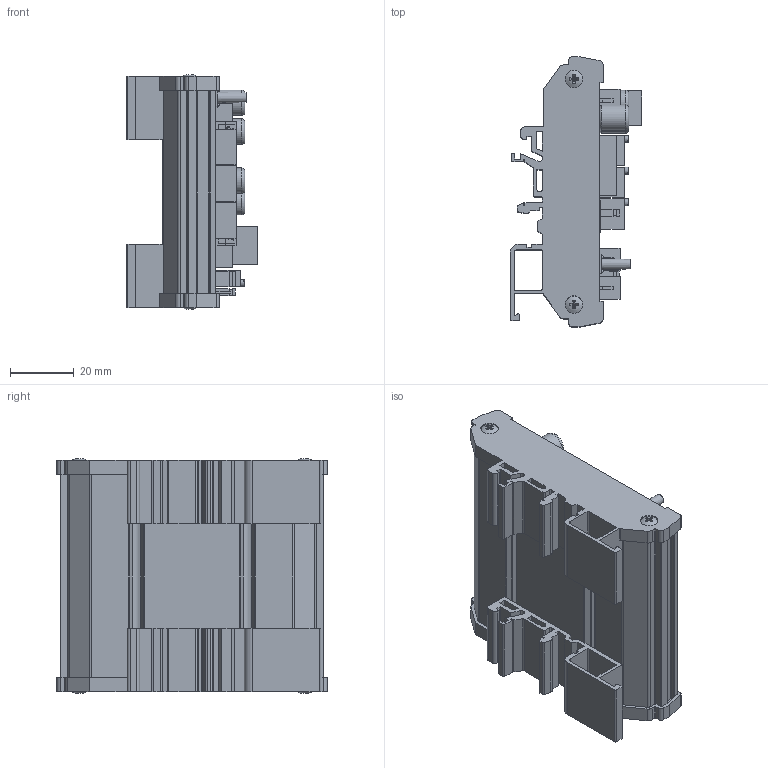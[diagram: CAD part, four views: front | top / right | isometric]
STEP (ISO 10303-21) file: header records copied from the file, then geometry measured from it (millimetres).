
FILE_DESCRIPTION(('STEP AP203'), '1');
FILE_NAME('ﾃ褊褞瑣ⅱ PLC002-G2', '2022-09-19T13:29:51', (''), (''), 'ASCON STEP Converter 1.6', 'ASCON Math Kernel', '');
FILE_SCHEMA(('CONFIG_CONTROL_DESIGN'));
Length unit declared in the file: millimetre
Products named in the file (1): PLC002-G2.00.000
Bounding box: 41.3 x 85 x 73.9 mm (x, y, z)
Volume: 85305.4 mm3; surface area: 54390.1 mm2
Topology: 1 solids, 1 shells, 3166 faces, 8772 edges, 5738 vertices
Faces by surface type: plane 2437, cylinder 668, bspline 32, torus 20, revolution 4, sphere 4, cone 1
Full cylindrical faces by diameter (mm): 0.52 x8, 1.6 x4, 2.2 x3, 4 x12, 5.5 x4, 8 x8
Entity records: 126044 total; most frequent: CARTESIAN_POINT 18621, ORIENTED_EDGE 17400, DIRECTION 16382, EDGE_CURVE 8700, LINE 7220, VECTOR 7220, VERTEX_POINT 5738, AXIS2_PLACEMENT_3D 4579
